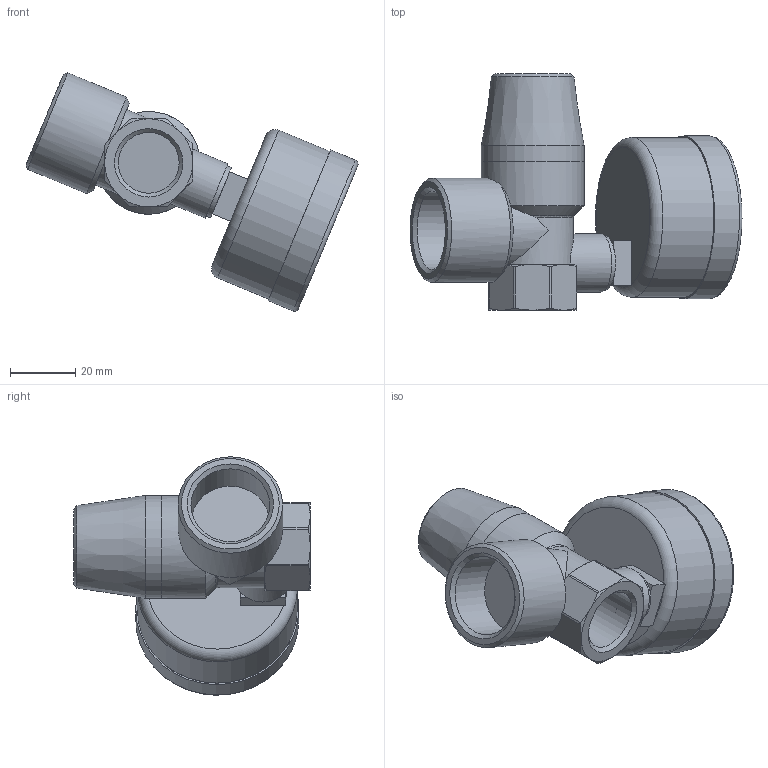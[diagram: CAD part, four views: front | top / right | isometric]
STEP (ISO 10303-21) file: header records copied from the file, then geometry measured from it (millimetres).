
FILE_DESCRIPTION(/* description */ ('SVM/E30 1/2 3,0bar'),/* implementation_level */ '2;1');
FILE_NAME(/* name */ 'C:\Users\hansh\Desktop\0215730_i.stp',/* time_stamp */ '2020-02-18T07:59:40+01:00',/* author */ ('hansh'),/* organization */ (''),/* preprocessor_version */ 'ST-DEVELOPER v17',/* originating_system */ 'Autodesk Inventor 2018',/* authorisation */ '');
FILE_SCHEMA (('AUTOMOTIVE_DESIGN { 1 0 10303 214 3 1 1 }'));
Length unit declared in the file: millimetre
Products named in the file (12): 0215730_i; 0215730_01_i; 0215730_02_i; 0215730_03_i; 5152010_01_i; 5152010_02_i; 5152010_03_i; 5152010_04_i; 5152010_05_i; 5152024_06_i; 5152024_05_i; 5152010_07_i
Assembly tree (11 placements, depth 3):
  0215730_i
    0215730_01_i
    0215730_02_i
    0215730_03_i
      5152010_01_i
      5152010_02_i
      5152010_03_i
      5152010_04_i
      5152010_05_i
      5152024_06_i
      5152024_05_i
      5152010_07_i
Bounding box: 101.77 x 72.5 x 73.08 mm (x, y, z)
Volume: 104298.3 mm3; surface area: 35548.4 mm2
Topology: 10 solids, 10 shells, 314 faces, 777 edges, 515 vertices
Faces by surface type: plane 214, cylinder 36, bspline 35, cone 24, torus 5
Full cylindrical faces by diameter (mm): 2 x1, 11.445 x1, 15 x2, 16.662 x2, 17 x1, 18 x1, 18.63 x1, 24.117 x1, 31.5 x2, 32 x1, 45 x1, 48 x2, 49 x2, 50 x1
Entity records: 10011 total; most frequent: CARTESIAN_POINT 2241, ORIENTED_EDGE 1552, DIRECTION 1401, EDGE_CURVE 776, LINE 519, VECTOR 519, VERTEX_POINT 515, AXIS2_PLACEMENT_3D 441
